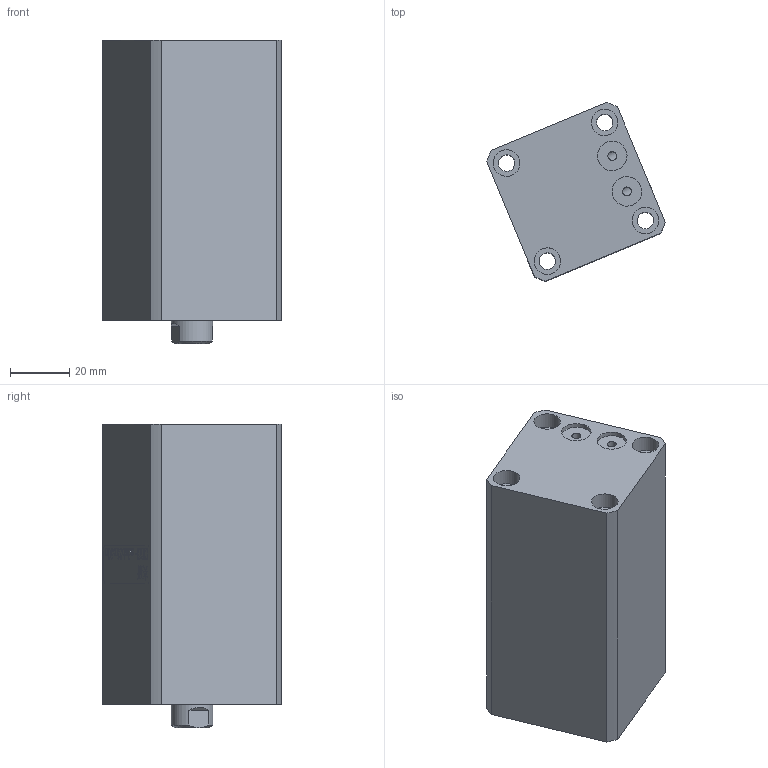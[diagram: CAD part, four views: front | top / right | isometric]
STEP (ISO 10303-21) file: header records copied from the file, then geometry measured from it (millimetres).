
FILE_DESCRIPTION(/* description */ (''),/* implementation_level */ '2;1');
FILE_NAME(/* name */ 'CHTB-sdmb25x50n.stp',/* time_stamp */ '2022-04-29T15:08:55+08:00',/* author */ (''),/* organization */ (''),/* preprocessor_version */ 'ST-DEVELOPER v16.7',/* originating_system */ 'SIEMENS PLM Software NX 12.0',/* authorisation */ '');
FILE_SCHEMA (('AUTOMOTIVE_DESIGN { 1 0 10303 214 3 1 1 1 }'));
Length unit declared in the file: millimetre
Products named in the file (1): CHTB-sdmb25x50n
Bounding box: 60.55 x 60.55 x 103 mm (x, y, z)
Volume: 187075.3 mm3; surface area: 49232 mm2
Topology: 3 solids, 3 shells, 472 faces, 1259 edges, 839 vertices
Faces by surface type: plane 303, extrusion 112, cylinder 43, bspline 8, cone 5, torus 1
Full cylindrical faces by diameter (mm): 3 x4, 4 x2, 5.6 x4, 8.5 x1, 9 x8, 10 x2, 14 x2, 21 x2, 23 x2, 25 x5, 31 x1
Entity records: 21733 total; most frequent: CARTESIAN_POINT 7887, ORIENTED_EDGE 2406, DIRECTION 1848, EDGE_CURVE 1203, VECTOR 976, LINE 864, VERTEX_POINT 826, EDGE_LOOP 574
